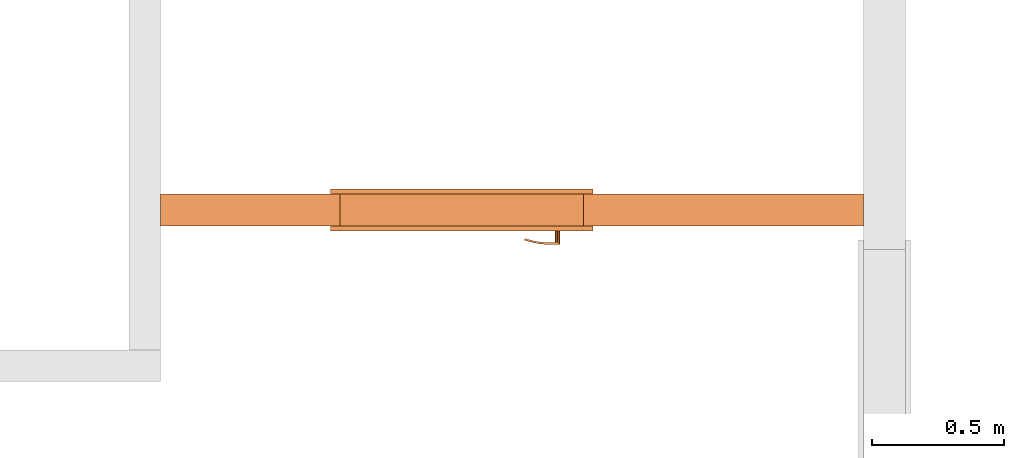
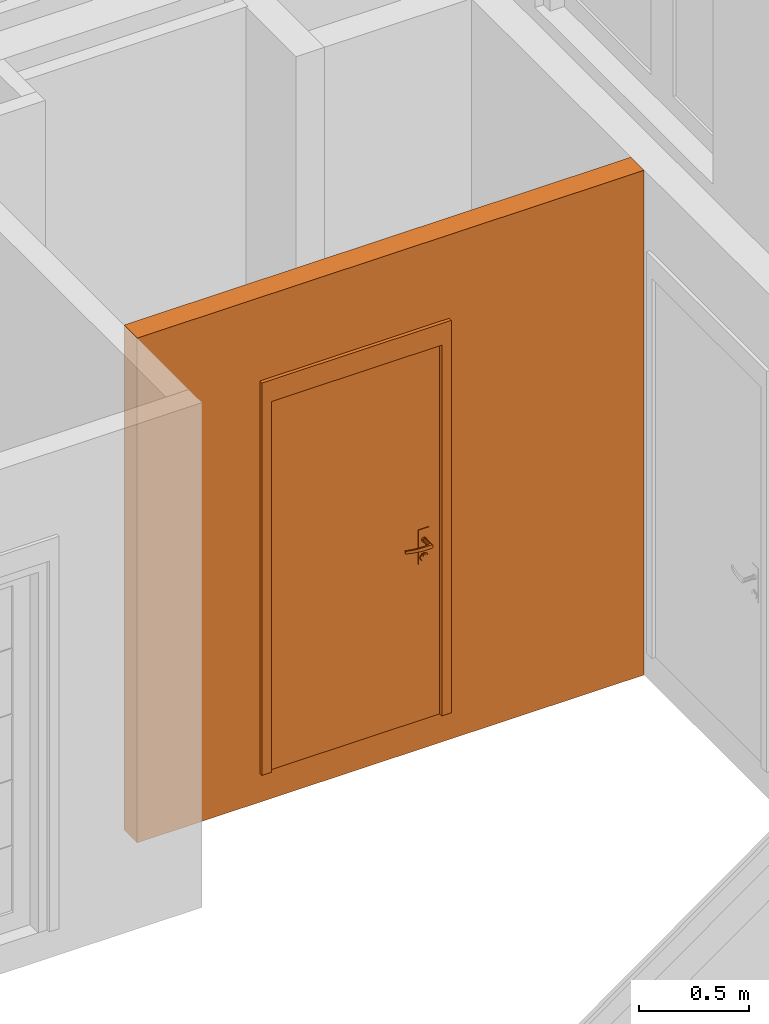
# One storey, part 12 of 64: 2 proxies, 1 opening.
"""IFC2X3 building model written with IfcOpenShell, lengths in millimetres."""

from ifc_helpers import new_model, entity, si_unit, converted_unit, derived_unit, money_unit, direction, frame, origin_with_axes, origin_2d_with_axis, place, context, subcontext, project, spatial, rectangle, extrude, open_shell, faceted_brep, surface_model, source, transform, mapped, material, type_object, element, fill, save


model = new_model("IFC2X3")

# Units and contexts
model_context = context("Model", 3, precision=0.01, world=origin_with_axes(), true_north=direction((0.34421633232, 0.938890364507)))
body_context = subcontext(model_context, "Body", "Model", "MODEL_VIEW")
ifc_project = project(units=[si_unit("LENGTHUNIT", "METRE", prefix="MILLI"), si_unit("AREAUNIT", "SQUARE_METRE"), si_unit("VOLUMEUNIT", "CUBIC_METRE"), converted_unit("PLANEANGLEUNIT", "DEGREE", entity("IfcPlaneAngleMeasure", 0.0174532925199), si_unit("PLANEANGLEUNIT", "RADIAN"), dimensions=[0, 0, 0, 0, 0, 0, 0]), si_unit("SOLIDANGLEUNIT", "STERADIAN"), money_unit("USD"), converted_unit("TIMEUNIT", "Year", entity("IfcTimeMeasure", 31556926.0), si_unit("TIMEUNIT", "SECOND"), dimensions=[0, 0, 1, 0, 0, 0, 0]), si_unit("MASSUNIT", "GRAM", prefix="KILO"), si_unit("THERMODYNAMICTEMPERATUREUNIT", "DEGREE_CELSIUS"), si_unit("LUMINOUSINTENSITYUNIT", "LUMEN"), si_unit("ENERGYUNIT", "JOULE", prefix="MEGA"), derived_unit("THERMALCONDUCTANCEUNIT", [(si_unit("POWERUNIT", "WATT"), 1), (si_unit("LENGTHUNIT", "METRE"), -1), (si_unit("THERMODYNAMICTEMPERATUREUNIT", "KELVIN"), -1)]), derived_unit("SPECIFICHEATCAPACITYUNIT", [(si_unit("ENERGYUNIT", "JOULE"), 1), (si_unit("MASSUNIT", "GRAM", prefix="KILO"), -1), (si_unit("THERMODYNAMICTEMPERATUREUNIT", "KELVIN"), -1)]), derived_unit("MASSDENSITYUNIT", [(si_unit("MASSUNIT", "GRAM", prefix="KILO"), 1), (si_unit("VOLUMEUNIT", "CUBIC_METRE"), -1)])], contexts=[model_context])

# Site, building, storey
site_placement = place(None, origin_with_axes())
site = spatial("IfcSite", under=ifc_project, at=site_placement, Name="USTRONIE MORSKIE", CompositionType="ELEMENT")
building_placement = place(site_placement, origin_with_axes())
building = spatial("IfcBuilding", under=site, at=building_placement, Name="Budynek", CompositionType="ELEMENT")
storey_placement = place(building_placement, frame((0.0, 0.0, 7000.0), z_axis=(0.0, 0.0, 1.0), x_axis=(1.0, 0.0, 0.0)))
storey = spatial("IfcBuildingStorey", under=building, at=storey_placement, Name="PIĘTRO 2", CompositionType="ELEMENT", Elevation=7000.0)

# Proxies, opening
ifc_material = material(Name="Bloczki silikatowe")
building_element_proxy_type_1 = type_object("IfcBuildingElementProxyType", Name="Bloczki silikatowe 120", PredefinedType="NOTDEFINED")
proxy_1_placement = place(storey_placement, frame((354717.920919, 724641.179437, -160.0), z_axis=(0.0, 0.0, 1.0), x_axis=(1.0, 0.0, 0.0)))
proxy_1 = element("IfcBuildingElementProxy", 1, at=proxy_1_placement, inside=storey, type_object=building_element_proxy_type_1, material=ifc_material, Name="SW-04", context=body_context, shape_type="Brep", body=[
    faceted_brep([(2720.0, -59.9999999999, 2800.0), (2720.0, 59.9999999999, 2800.0), (60.0, 59.9999999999, 2800.0), (60.0, -59.9999999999, 2800.0), (2720.0, -59.9999999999, 0.0), (2720.0, 59.9999999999, 0.0), (60.0, 59.9999999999, 0.0), (60.0, -59.9999999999, 0.0)], [[[0, 1, 2, 3]], [[1, 0, 4, 5]], [[1, 5, 6, 2]], [[7, 3, 2, 6]], [[4, 0, 3, 7]], [[5, 4, 7, 6]]]),
])
opening_placement = place(proxy_1_placement, frame((1200.0, -1.13686837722e-10, 160.0), z_axis=(0.0, 0.0, 1.0), x_axis=(1.0, 0.0, 0.0)))
opening = element("IfcOpeningElement", 2, at=opening_placement, cuts=proxy_1, Name="Dw.4", context=body_context, shape_type="SweptSolid", body=[
    extrude(rectangle(XDim=920.0, YDim=2070.0, at=origin_2d_with_axis()), frame((0.0, 120.0, 1035.0), z_axis=(0.0, -1.0, 0.0), x_axis=(-1.0, 0.0, 0.0)), (0.0, 0.0, 1.0), 360.0),
    extrude(rectangle(XDim=994.0, YDim=2177.0, at=origin_2d_with_axis()), frame((0.0, 60.0000000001, 1088.5), z_axis=(0.0, -1.0, 0.0), x_axis=(-1.0, 0.0, 0.0)), (0.0, 0.0, -1.0), 120.0),
    extrude(rectangle(XDim=994.0, YDim=2177.0, at=origin_2d_with_axis()), frame((0.0, -59.9999999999, 1088.5), z_axis=(0.0, 1.0, 0.0), x_axis=(-1.0, 0.0, 0.0)), (0.0, 0.0, -1.0), 120.0),
])
building_element_proxy_type_2 = type_object("IfcBuildingElementProxyType", Name="Drzwi 23", PredefinedType="NOTDEFINED")
shared_shape = source(origin_with_axes(), body_context, "Body", "SurfaceModel", [
    faceted_brep([(-460.0, -115.0, 0.0), (-435.0, -115.0, 0.0), (-435.0, -120.0, 0.0), (-460.0, -120.0, 0.0), (-460.0, -115.0, 2070.0), (-435.0, -115.0, 2045.0), (-435.0, -120.0, 2045.0), (-460.0, -120.0, 2070.0)], [[[0, 1, 2, 3]], [[0, 4, 5, 1]], [[1, 5, 6, 2]], [[3, 2, 6, 7]], [[4, 0, 3, 7]], [[5, 4, 7, 6]]]),
    faceted_brep([(460.0, -115.0, 2070.0), (435.0, -115.0, 2045.0), (435.0, -120.0, 2045.0), (460.0, -120.0, 2070.0), (460.0, -115.0, 0.0), (435.0, -115.0, 0.0), (435.0, -120.0, 0.0), (460.0, -120.0, 0.0)], [[[0, 1, 2, 3]], [[0, 4, 5, 1]], [[1, 5, 6, 2]], [[3, 2, 6, 7]], [[4, 0, 3, 7]], [[5, 4, 7, 6]]]),
    faceted_brep([(-435.0, -115.0, 2045.0), (435.0, -115.0, 2045.0), (435.0, -120.0, 2045.0), (-435.0, -120.0, 2045.0), (-460.0, -115.0, 2070.0), (460.0, -115.0, 2070.0), (460.0, -120.0, 2070.0), (-460.0, -120.0, 2070.0)], [[[0, 1, 2, 3]], [[0, 4, 5, 1]], [[1, 5, 6, 2]], [[3, 2, 6, 7]], [[4, 0, 3, 7]], [[5, 4, 7, 6]]]),
    faceted_brep([(-497.0, -139.0, 0.0), (-497.0, -120.0, 0.0), (-447.0, -120.0, 0.0), (-447.0, -139.0, 0.0), (-497.0, -139.0, 2177.0), (-497.0, -120.0, 2177.0), (-447.0, -120.0, 2057.0), (-447.0, -139.0, 2057.0)], [[[0, 1, 2, 3]], [[4, 5, 1, 0]], [[1, 5, 6, 2]], [[3, 2, 6, 7]], [[0, 3, 7, 4]], [[7, 6, 5, 4]]]),
    faceted_brep([(497.0, -139.0, 2177.0), (497.0, -120.0, 2177.0), (447.0, -120.0, 2057.0), (447.0, -139.0, 2057.0), (497.0, -139.0, 0.0), (497.0, -120.0, 0.0), (447.0, -120.0, 0.0), (447.0, -139.0, 0.0)], [[[0, 1, 2, 3]], [[4, 5, 1, 0]], [[1, 5, 6, 2]], [[3, 2, 6, 7]], [[0, 3, 7, 4]], [[7, 6, 5, 4]]]),
    faceted_brep([(-497.0, -139.0, 2177.0), (-497.0, -120.0, 2177.0), (-447.0, -120.0, 2057.0), (-447.0, -139.0, 2057.0), (497.0, -139.0, 2177.0), (497.0, -120.0, 2177.0), (447.0, -120.0, 2057.0), (447.0, -139.0, 2057.0)], [[[0, 1, 2, 3]], [[4, 5, 1, 0]], [[1, 5, 6, 2]], [[3, 2, 6, 7]], [[0, 3, 7, 4]], [[7, 6, 5, 4]]]),
    faceted_brep([(-497.0, 19.0, 0.0), (-447.0, 19.0, 0.0), (-447.0, 0.0, 0.0), (-497.0, 0.0, 0.0), (-497.0, 19.0, 2177.0), (-447.0, 19.0, 2057.0), (-447.0, 0.0, 2057.0), (-497.0, 0.0, 2177.0)], [[[0, 1, 2, 3]], [[0, 4, 5, 1]], [[1, 5, 6, 2]], [[3, 2, 6, 7]], [[4, 0, 3, 7]], [[5, 4, 7, 6]]]),
    faceted_brep([(497.0, 19.0, 2177.0), (447.0, 19.0, 2057.0), (447.0, 0.0, 2057.0), (497.0, 0.0, 2177.0), (497.0, 19.0, 0.0), (447.0, 19.0, 0.0), (447.0, 0.0, 0.0), (497.0, 0.0, 0.0)], [[[0, 1, 2, 3]], [[0, 4, 5, 1]], [[1, 5, 6, 2]], [[3, 2, 6, 7]], [[4, 0, 3, 7]], [[5, 4, 7, 6]]]),
    faceted_brep([(-497.0, 19.0, 2177.0), (-447.0, 19.0, 2057.0), (-447.0, 0.0, 2057.0), (-497.0, 0.0, 2177.0), (497.0, 19.0, 2177.0), (447.0, 19.0, 2057.0), (447.0, 0.0, 2057.0), (497.0, 0.0, 2177.0)], [[[0, 1, 2, 3]], [[0, 4, 5, 1]], [[1, 5, 6, 2]], [[3, 2, 6, 7]], [[4, 0, 3, 7]], [[5, 4, 7, 6]]]),
    faceted_brep([(-400.0, -40.0, 0.0), (-400.0, -40.0, 2000.0), (-400.0, -115.0, 2000.0), (-400.0, -115.0, 0.0), (-412.0, -40.0, 2000.0), (-412.0, -40.0, 0.0), (-412.0, 0.0, 2000.0), (-460.0, 0.0, 2000.0), (-460.0, -115.0, 2000.0), (-460.0, -115.0, 0.0), (-460.0, 0.0, 0.0), (-412.0, 0.0, 0.0)], [[[0, 1, 2, 3]], [[4, 1, 0, 5]], [[4, 6, 7, 8, 2, 1]], [[3, 2, 8, 9]], [[5, 0, 3, 9, 10, 11]], [[6, 4, 5, 11]], [[6, 11, 10, 7]], [[10, 9, 8, 7]]]),
    faceted_brep([(412.0, -40.0, 2000.0), (400.0, -40.0, 2000.0), (400.0, -115.0, 2000.0), (460.0, -115.0, 2000.0), (460.0, 0.0, 2000.0), (412.0, 0.0, 2000.0), (412.0, -40.0, 0.0), (400.0, -40.0, 0.0), (400.0, -115.0, 0.0), (460.0, -115.0, 0.0), (460.0, 0.0, 0.0), (412.0, 0.0, 0.0)], [[[0, 1, 2, 3, 4, 5]], [[1, 0, 6, 7]], [[1, 7, 8, 2]], [[3, 2, 8, 9]], [[4, 3, 9, 10]], [[11, 5, 4, 10]], [[0, 5, 11, 6]], [[6, 11, 10, 9, 8, 7]]]),
    faceted_brep([(-412.0, 0.0, 2012.0), (-412.0, 0.0, 2000.0), (-460.0, 0.0, 2000.0), (-460.0, 0.0, 2070.0), (460.0, 0.0, 2070.0), (460.0, 0.0, 2000.0), (412.0, 0.0, 2000.0), (412.0, 0.0, 2012.0), (-412.0, -40.0, 2012.0), (-412.0, -40.0, 2000.0), (-400.0, -40.0, 2000.0), (-400.0, -115.0, 2000.0), (-460.0, -115.0, 2000.0), (-460.0, -115.0, 2070.0), (460.0, -115.0, 2070.0), (460.0, -115.0, 2000.0), (412.0, -40.0, 2000.0), (400.0, -115.0, 2000.0), (400.0, -40.0, 2000.0), (412.0, -40.0, 2012.0)], [[[0, 1, 2, 3, 4, 5, 6, 7]], [[1, 0, 8, 9]], [[9, 10, 11, 12, 2, 1]], [[2, 12, 13, 3]], [[3, 13, 14, 4]], [[4, 14, 15, 5]], [[16, 6, 5, 15, 17, 18]], [[7, 6, 16, 19]], [[0, 7, 19, 8]], [[16, 18, 10, 9, 8, 19]], [[10, 18, 17, 11]], [[17, 15, 14, 13, 12, 11]]]),
    faceted_brep([(-390.5, -40.0, 1060.0), (-390.5, -43.0, 1060.0), (-333.5, -43.0, 1060.0), (-333.5, -40.0, 1060.0), (-390.5, -40.0, 870.0), (-390.5, -43.0, 870.0), (-333.5, -43.0, 870.0), (-333.5, -40.0, 870.0)], [[[0, 1, 2, 3]], [[4, 5, 1, 0]], [[1, 5, 6, 2]], [[3, 2, 6, 7]], [[0, 3, 7, 4]], [[7, 6, 5, 4]]]),
    faceted_brep([(-362.0, -104.0, 990.0), (-362.0, -111.0, 990.0), (-367.0, -111.0, 991.339745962), (-367.0, -104.0, 991.339745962), (-337.0, -104.0, 990.0), (-337.0, -111.0, 990.0), (-337.0, -111.0, 1010.0), (-362.0, -111.0, 1010.0), (-367.0, -111.0, 1008.66025404), (-370.660254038, -111.0, 1005.0), (-372.0, -111.0, 1000.0), (-370.660254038, -111.0, 995.0), (-370.660254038, -104.0, 995.0), (-372.0, -104.0, 1000.0), (-370.660254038, -104.0, 1005.0), (-367.0, -104.0, 1008.66025404), (-362.0, -104.0, 1010.0), (-337.0, -104.0, 1010.0)], [[[0, 1, 2, 3]], [[4, 5, 1, 0]], [[1, 5, 6, 7, 8, 9, 10, 11, 2]], [[3, 2, 11, 12]], [[0, 3, 12, 13, 14, 15, 16, 17, 4]], [[17, 6, 5, 4]], [[16, 7, 6, 17]], [[15, 8, 7, 16]], [[14, 9, 8, 15]], [[13, 10, 9, 14]], [[12, 11, 10, 13]]]),
    surface_model("IfcShellBasedSurfaceModel", [(-337.0, -104.0, 1010.0), (-323.596090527, -111.0, 1009.60730092), (-323.901717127, -104.0, 1009.60730092), (-337.0, -111.0, 1010.0), (-296.890283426, -108.663544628, 1008.82190275), (-323.901717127, -104.0, 990.392699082), (-337.0, -104.0, 990.0), (-337.0, -111.0, 990.0), (-323.596090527, -111.0, 990.392699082), (-296.890283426, -108.663544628, 991.178097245), (-297.804837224, -101.716818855, 1008.82190275), (-297.804837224, -101.716818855, 991.178097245), (-270.489735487, -104.008415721, 991.963495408), (-270.489735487, -104.008415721, 1008.03650459), (-272.006256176, -97.1678329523, 1008.03650459), (-272.006256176, -97.1678329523, 991.963495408), (-244.59537082, -97.0700416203, 992.748893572), (-244.59537082, -97.0700416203, 1007.25110643), (-246.702316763, -90.3876628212, 1007.25110643), (-246.702316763, -90.3876628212, 992.748893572), (-236.538795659, -94.1376880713, 993.0), (-236.538795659, -94.1376880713, 1007.0), (-238.829442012, -87.5221707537, 1007.0), (-238.829442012, -87.5221707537, 993.0)], [open_shell([[[0, 1, 2]], [[0, 3, 1]], [[2, 1, 4]], [[0, 2, 5, 6]], [[3, 7, 8, 1]], [[1, 8, 9, 4]], [[2, 4, 10]], [[2, 10, 11, 5]], [[5, 7, 6]], [[5, 8, 7]], [[11, 9, 8]], [[4, 9, 12, 13]], [[10, 4, 13]], [[10, 14, 15, 11]], [[11, 8, 5]], [[15, 9, 11]], [[15, 12, 9]], [[13, 12, 16, 17]], [[10, 13, 14]], [[14, 18, 19, 15]], [[19, 12, 15]], [[19, 16, 12]], [[17, 16, 20, 21]], [[14, 13, 17]], [[14, 17, 18]], [[18, 22, 23, 19]], [[23, 16, 19]], [[23, 20, 16]], [[22, 21, 20, 23]], [[18, 17, 21]], [[18, 21, 22]]])]),
    faceted_brep([(-351.607695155, -53.0, 994.0), (-350.741669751, -43.0, 993.5), (-349.0, -43.0, 1000.0), (-350.0, -53.0, 1000.0), (-356.0, -53.0, 989.607695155), (-355.5, -43.0, 988.741669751), (-362.0, -43.0, 987.0), (-368.5, -43.0, 988.741669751), (-373.258330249, -43.0, 993.5), (-375.0, -43.0, 1000.0), (-373.258330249, -43.0, 1006.5), (-368.5, -43.0, 1011.25833025), (-362.0, -43.0, 1013.0), (-355.5, -43.0, 1011.25833025), (-350.741669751, -43.0, 1006.5), (-351.607695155, -53.0, 1006.0), (-356.0, -53.0, 1010.39230485), (-362.0, -53.0, 1012.0), (-368.0, -53.0, 1010.39230485), (-372.392304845, -53.0, 1006.0), (-374.0, -53.0, 1000.0), (-372.392304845, -53.0, 994.0), (-368.0, -53.0, 989.607695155), (-362.0, -53.0, 988.0)], [[[0, 1, 2, 3]], [[4, 5, 1, 0]], [[2, 1, 5, 6, 7, 8, 9, 10, 11, 12, 13, 14]], [[3, 2, 14, 15]], [[3, 15, 16, 17, 18, 19, 20, 21, 22, 23, 4, 0]], [[23, 6, 5, 4]], [[22, 7, 6, 23]], [[21, 8, 7, 22]], [[20, 9, 8, 21]], [[19, 10, 9, 20]], [[18, 11, 10, 19]], [[17, 12, 11, 18]], [[16, 13, 12, 17]], [[15, 14, 13, 16]]]),
    faceted_brep([(-344.679491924, -47.0, 895.0), (-342.947441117, -43.0, 894.0), (-340.0, -43.0, 905.0), (-342.0, -47.0, 905.0), (-352.0, -47.0, 887.679491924), (-351.0, -43.0, 885.947441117), (-362.0, -43.0, 883.0), (-373.0, -43.0, 885.947441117), (-381.052558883, -43.0, 894.0), (-384.0, -43.0, 905.0), (-381.052558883, -43.0, 916.0), (-373.0, -43.0, 924.052558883), (-362.0, -43.0, 927.0), (-351.0, -43.0, 924.052558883), (-342.947441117, -43.0, 916.0), (-344.679491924, -47.0, 915.0), (-352.0, -47.0, 922.320508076), (-362.0, -47.0, 925.0), (-372.0, -47.0, 922.320508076), (-379.320508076, -47.0, 915.0), (-382.0, -47.0, 905.0), (-379.320508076, -47.0, 895.0), (-372.0, -47.0, 887.679491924), (-362.0, -47.0, 885.0)], [[[0, 1, 2, 3]], [[4, 5, 1, 0]], [[2, 1, 5, 6, 7, 8, 9, 10, 11, 12, 13, 14]], [[3, 2, 14, 15]], [[3, 15, 16, 17, 18, 19, 20, 21, 22, 23, 4, 0]], [[23, 6, 5, 4]], [[22, 7, 6, 23]], [[21, 8, 7, 22]], [[20, 9, 8, 21]], [[19, 10, 9, 20]], [[18, 11, 10, 19]], [[17, 12, 11, 18]], [[16, 13, 12, 17]], [[15, 14, 13, 16]]]),
    faceted_brep([(-357.050252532, -49.0, 909.050252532), (-356.343145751, -47.0, 908.343145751), (-354.0, -47.0, 914.0), (-355.0, -49.0, 914.0), (-362.0, -49.0, 907.0), (-362.0, -47.0, 906.0), (-367.656854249, -47.0, 908.343145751), (-370.0, -47.0, 914.0), (-367.656854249, -47.0, 919.656854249), (-362.0, -47.0, 922.0), (-356.343145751, -47.0, 919.656854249), (-357.050252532, -49.0, 918.949747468), (-362.0, -49.0, 921.0), (-366.949747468, -49.0, 918.949747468), (-369.0, -49.0, 914.0), (-366.949747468, -49.0, 909.050252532)], [[[0, 1, 2, 3]], [[4, 5, 1, 0]], [[2, 1, 5, 6, 7, 8, 9, 10]], [[3, 2, 10, 11]], [[3, 11, 12, 13, 14, 15, 4, 0]], [[15, 6, 5, 4]], [[14, 7, 6, 15]], [[13, 8, 7, 14]], [[12, 9, 8, 13]], [[11, 10, 9, 12]]]),
    faceted_brep([(-362.0, -53.0, 1010.0), (-362.0, -104.0, 1010.0), (-357.0, -104.0, 1008.66025404), (-357.0, -53.0, 1008.66025404), (-367.0, -53.0, 1008.66025404), (-367.0, -104.0, 1008.66025404), (-370.660254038, -104.0, 1005.0), (-372.0, -104.0, 1000.0), (-370.660254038, -104.0, 995.0), (-367.0, -104.0, 991.339745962), (-362.0, -104.0, 990.0), (-357.0, -104.0, 991.339745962), (-353.339745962, -104.0, 995.0), (-352.0, -104.0, 1000.0), (-353.339745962, -104.0, 1005.0), (-353.339745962, -53.0, 1005.0), (-352.0, -53.0, 1000.0), (-353.339745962, -53.0, 995.0), (-357.0, -53.0, 991.339745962), (-362.0, -53.0, 990.0), (-367.0, -53.0, 991.339745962), (-370.660254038, -53.0, 995.0), (-372.0, -53.0, 1000.0), (-370.660254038, -53.0, 1005.0)], [[[0, 1, 2, 3]], [[4, 5, 1, 0]], [[1, 5, 6, 7, 8, 9, 10, 11, 12, 13, 14, 2]], [[3, 2, 14, 15]], [[0, 3, 15, 16, 17, 18, 19, 20, 21, 22, 23, 4]], [[23, 6, 5, 4]], [[22, 7, 6, 23]], [[21, 8, 7, 22]], [[20, 9, 8, 21]], [[19, 10, 9, 20]], [[18, 11, 10, 19]], [[17, 12, 11, 18]], [[16, 13, 12, 17]], [[15, 14, 13, 16]]]),
    faceted_brep([(-390.5, 0.0, 1060.0), (-333.5, 0.0, 1060.0), (-333.5, 3.0, 1060.0), (-390.5, 3.0, 1060.0), (-390.5, 0.0, 870.0), (-333.5, 0.0, 870.0), (-333.5, 3.0, 870.0), (-390.5, 3.0, 870.0)], [[[0, 1, 2, 3]], [[0, 4, 5, 1]], [[1, 5, 6, 2]], [[3, 2, 6, 7]], [[4, 0, 3, 7]], [[5, 4, 7, 6]]]),
    faceted_brep([(-362.0, 64.0, 990.0), (-367.0, 64.0, 991.339745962), (-367.0, 71.0, 991.339745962), (-362.0, 71.0, 990.0), (-337.0, 64.0, 990.0), (-337.0, 64.0, 1010.0), (-362.0, 64.0, 1010.0), (-367.0, 64.0, 1008.66025404), (-370.660254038, 64.0, 1005.0), (-372.0, 64.0, 1000.0), (-370.660254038, 64.0, 995.0), (-370.660254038, 71.0, 995.0), (-372.0, 71.0, 1000.0), (-370.660254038, 71.0, 1005.0), (-367.0, 71.0, 1008.66025404), (-362.0, 71.0, 1010.0), (-337.0, 71.0, 1010.0), (-337.0, 71.0, 990.0)], [[[0, 1, 2, 3]], [[0, 4, 5, 6, 7, 8, 9, 10, 1]], [[1, 10, 11, 2]], [[3, 2, 11, 12, 13, 14, 15, 16, 17]], [[4, 0, 3, 17]], [[5, 4, 17, 16]], [[6, 5, 16, 15]], [[7, 6, 15, 14]], [[8, 7, 14, 13]], [[9, 8, 13, 12]], [[10, 9, 12, 11]]]),
    surface_model("IfcShellBasedSurfaceModel", [(-337.0, 64.0, 1010.0), (-323.901717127, 64.0, 1009.60730092), (-323.596090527, 71.0, 1009.60730092), (-337.0, 64.0, 990.0), (-323.901717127, 64.0, 990.392699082), (-296.890283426, 68.6635446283, 1008.82190275), (-337.0, 71.0, 1010.0), (-337.0, 71.0, 990.0), (-297.804837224, 61.716818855, 991.178097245), (-297.804837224, 61.716818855, 1008.82190275), (-296.890283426, 68.6635446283, 991.178097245), (-323.596090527, 71.0, 990.392699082), (-272.006256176, 57.1678329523, 991.963495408), (-272.006256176, 57.1678329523, 1008.03650459), (-270.489735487, 64.0084157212, 1008.03650459), (-270.489735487, 64.0084157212, 991.963495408), (-246.702316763, 50.3876628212, 992.748893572), (-246.702316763, 50.3876628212, 1007.25110643), (-244.59537082, 57.0700416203, 1007.25110643), (-244.59537082, 57.0700416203, 992.748893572), (-238.829442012, 47.5221707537, 993.0), (-238.829442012, 47.5221707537, 1007.0), (-236.538795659, 54.1376880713, 1007.0), (-236.538795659, 54.1376880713, 993.0)], [open_shell([[[0, 1, 2]], [[0, 3, 4, 1]], [[1, 5, 2]], [[0, 2, 6]], [[4, 3, 7]], [[1, 4, 8, 9]], [[1, 9, 5]], [[2, 5, 10, 11]], [[6, 2, 11, 7]], [[4, 7, 11]], [[8, 4, 11]], [[9, 8, 12, 13]], [[9, 14, 5]], [[5, 14, 15, 10]], [[8, 11, 10]], [[12, 8, 10]], [[13, 12, 16, 17]], [[9, 13, 14]], [[14, 18, 19, 15]], [[12, 10, 15]], [[16, 12, 15]], [[17, 16, 20, 21]], [[13, 17, 18]], [[13, 18, 14]], [[18, 22, 23, 19]], [[16, 15, 19]], [[20, 16, 19]], [[21, 20, 23, 22]], [[17, 21, 22]], [[17, 22, 18]], [[20, 19, 23]]])]),
    faceted_brep([(-351.607695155, 13.0, 994.0), (-350.0, 13.0, 1000.0), (-349.0, 3.0, 1000.0), (-350.741669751, 3.0, 993.5), (-356.0, 13.0, 989.607695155), (-362.0, 13.0, 988.0), (-368.0, 13.0, 989.607695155), (-372.392304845, 13.0, 994.0), (-374.0, 13.0, 1000.0), (-372.392304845, 13.0, 1006.0), (-368.0, 13.0, 1010.39230485), (-362.0, 13.0, 1012.0), (-356.0, 13.0, 1010.39230485), (-351.607695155, 13.0, 1006.0), (-350.741669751, 3.0, 1006.5), (-355.5, 3.0, 1011.25833025), (-362.0, 3.0, 1013.0), (-368.5, 3.0, 1011.25833025), (-373.258330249, 3.0, 1006.5), (-375.0, 3.0, 1000.0), (-373.258330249, 3.0, 993.5), (-368.5, 3.0, 988.741669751), (-362.0, 3.0, 987.0), (-355.5, 3.0, 988.741669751)], [[[0, 1, 2, 3]], [[1, 0, 4, 5, 6, 7, 8, 9, 10, 11, 12, 13]], [[1, 13, 14, 2]], [[2, 14, 15, 16, 17, 18, 19, 20, 21, 22, 23, 3]], [[4, 0, 3, 23]], [[5, 4, 23, 22]], [[6, 5, 22, 21]], [[7, 6, 21, 20]], [[8, 7, 20, 19]], [[9, 8, 19, 18]], [[10, 9, 18, 17]], [[11, 10, 17, 16]], [[12, 11, 16, 15]], [[13, 12, 15, 14]]]),
    faceted_brep([(-344.679491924, 7.0, 895.0), (-342.0, 7.0, 905.0), (-340.0, 3.0, 905.0), (-342.947441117, 3.0, 894.0), (-352.0, 7.0, 887.679491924), (-362.0, 7.0, 885.0), (-372.0, 7.0, 887.679491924), (-379.320508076, 7.0, 895.0), (-382.0, 7.0, 905.0), (-379.320508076, 7.0, 915.0), (-372.0, 7.0, 922.320508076), (-362.0, 7.0, 925.0), (-352.0, 7.0, 922.320508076), (-344.679491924, 7.0, 915.0), (-342.947441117, 3.0, 916.0), (-351.0, 3.0, 924.052558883), (-362.0, 3.0, 927.0), (-373.0, 3.0, 924.052558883), (-381.052558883, 3.0, 916.0), (-384.0, 3.0, 905.0), (-381.052558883, 3.0, 894.0), (-373.0, 3.0, 885.947441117), (-362.0, 3.0, 883.0), (-351.0, 3.0, 885.947441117)], [[[0, 1, 2, 3]], [[1, 0, 4, 5, 6, 7, 8, 9, 10, 11, 12, 13]], [[1, 13, 14, 2]], [[2, 14, 15, 16, 17, 18, 19, 20, 21, 22, 23, 3]], [[4, 0, 3, 23]], [[5, 4, 23, 22]], [[6, 5, 22, 21]], [[7, 6, 21, 20]], [[8, 7, 20, 19]], [[9, 8, 19, 18]], [[10, 9, 18, 17]], [[11, 10, 17, 16]], [[12, 11, 16, 15]], [[13, 12, 15, 14]]]),
    faceted_brep([(-357.050252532, 9.0, 909.050252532), (-355.0, 9.0, 914.0), (-354.0, 7.0, 914.0), (-356.343145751, 7.0, 908.343145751), (-362.0, 9.0, 907.0), (-366.949747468, 9.0, 909.050252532), (-369.0, 9.0, 914.0), (-366.949747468, 9.0, 918.949747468), (-362.0, 9.0, 921.0), (-357.050252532, 9.0, 918.949747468), (-356.343145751, 7.0, 919.656854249), (-362.0, 7.0, 922.0), (-367.656854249, 7.0, 919.656854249), (-370.0, 7.0, 914.0), (-367.656854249, 7.0, 908.343145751), (-362.0, 7.0, 906.0)], [[[0, 1, 2, 3]], [[1, 0, 4, 5, 6, 7, 8, 9]], [[1, 9, 10, 2]], [[2, 10, 11, 12, 13, 14, 15, 3]], [[4, 0, 3, 15]], [[5, 4, 15, 14]], [[6, 5, 14, 13]], [[7, 6, 13, 12]], [[8, 7, 12, 11]], [[9, 8, 11, 10]]]),
    faceted_brep([(-362.0, 13.0, 1010.0), (-357.0, 13.0, 1008.66025404), (-357.0, 64.0, 1008.66025404), (-362.0, 64.0, 1010.0), (-367.0, 13.0, 1008.66025404), (-370.660254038, 13.0, 1005.0), (-372.0, 13.0, 1000.0), (-370.660254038, 13.0, 995.0), (-367.0, 13.0, 991.339745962), (-362.0, 13.0, 990.0), (-357.0, 13.0, 991.339745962), (-353.339745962, 13.0, 995.0), (-352.0, 13.0, 1000.0), (-353.339745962, 13.0, 1005.0), (-353.339745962, 64.0, 1005.0), (-352.0, 64.0, 1000.0), (-353.339745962, 64.0, 995.0), (-357.0, 64.0, 991.339745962), (-362.0, 64.0, 990.0), (-367.0, 64.0, 991.339745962), (-370.660254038, 64.0, 995.0), (-372.0, 64.0, 1000.0), (-370.660254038, 64.0, 1005.0), (-367.0, 64.0, 1008.66025404)], [[[0, 1, 2, 3]], [[0, 4, 5, 6, 7, 8, 9, 10, 11, 12, 13, 1]], [[1, 13, 14, 2]], [[3, 2, 14, 15, 16, 17, 18, 19, 20, 21, 22, 23]], [[4, 0, 3, 23]], [[5, 4, 23, 22]], [[6, 5, 22, 21]], [[7, 6, 21, 20]], [[8, 7, 20, 19]], [[9, 8, 19, 18]], [[10, 9, 18, 17]], [[11, 10, 17, 16]], [[12, 11, 16, 15]], [[13, 12, 15, 14]]]),
    faceted_brep([(412.0, 0.0, 0.0), (412.0, -40.0, 0.0), (-412.0, -40.0, 0.0), (-412.0, 0.0, 0.0), (412.0, 0.0, 2012.0), (412.0, -40.0, 2012.0), (-412.0, -40.0, 2012.0), (-412.0, 0.0, 2012.0)], [[[0, 1, 2, 3]], [[4, 5, 1, 0]], [[1, 5, 6, 2]], [[3, 2, 6, 7]], [[0, 3, 7, 4]], [[7, 6, 5, 4]]]),
])
proxy_2_placement = place(opening_placement, frame((400.0, 0.0, 0.0), z_axis=(0.0, 0.0, 1.0), x_axis=(-1.0, 0.0, 0.0)))
proxy_2 = element("IfcBuildingElementProxy", 3, at=proxy_2_placement, inside=storey, type_object=building_element_proxy_type_2, Name="Dw.4", context=body_context, shape_type="MappedRepresentation", body=[
    mapped(shared_shape, transform((400.0, 59.9999999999, 0.0))),
])
fill(opening, proxy_2)

save(model, "model.ifc")
